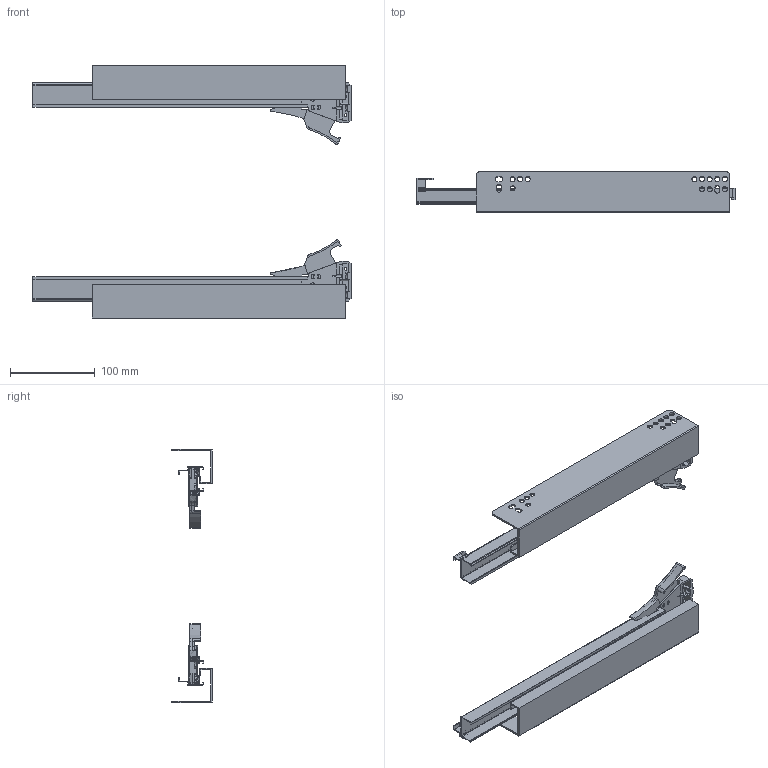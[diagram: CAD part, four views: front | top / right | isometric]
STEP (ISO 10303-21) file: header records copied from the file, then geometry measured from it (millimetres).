
FILE_DESCRIPTION(/* description */ (''),/* implementation_level */ '2;1');
FILE_NAME(/* name */ 'C:\Users\dmitruk\Documents\WORK\НАПРАВЛЯЮЩИЕ\Скрытого монтажа\PUSH\Направляющие скрытого монтажа PUSH TO OPEN\Направляющие скрытого монтажа PUSH TO OPEN-350.stp',/* time_stamp */ '2022-04-22T12:22:47+03:00',/* author */ ('dmitruk'),/* organization */ (''),/* preprocessor_version */ 'ST-DEVELOPER v16.5',/* originating_system */ 'Autodesk Inventor 2017',/* authorisation */ '');
FILE_SCHEMA (('AUTOMOTIVE_DESIGN { 1 0 10303 214 3 1 1 }'));
Length unit declared in the file: millimetre
Products named in the file (13): Направляющие \X2\0441043A
0440044B0442043E0433043E\X0\ монтажа PUSH
 TO OPEN; 3D CP Push; 3D DP Push; 3D CP Push LEFT; 3D DP Push LEFT; Замок Push R; Твердое \X2\04420435043B043E
\X0\1; Твердое \X2\04420435043B043E
\X0\2; Твердое \X2\04420435043B043E
\X0\3; Замок Pusg L; Твердое \X2\04420435043B043E
\X0\1_1; Твердое \X2\04420435043B043E
\X0\2_1; Твердое \X2\04420435043B043E
\X0\3_1
Assembly tree (12 placements, depth 3):
  Направляющие \X2\0441043A
0440044B0442043E0433043E\X0\ монтажа PUSH
 TO OPEN
    3D CP Push
    3D DP Push
    3D CP Push LEFT
    3D DP Push LEFT
    Замок Push R
      Твердое \X2\04420435043B043E
\X0\1
      Твердое \X2\04420435043B043E
\X0\2
      Твердое \X2\04420435043B043E
\X0\3
    Замок Pusg L
      Твердое \X2\04420435043B043E
\X0\1_1
      Твердое \X2\04420435043B043E
\X0\2_1
      Твердое \X2\04420435043B043E
\X0\3_1
Bounding box: 376 x 48 x 300 mm (x, y, z)
Volume: 198005.7 mm3; surface area: 250002.4 mm2
Topology: 10 solids, 10 shells, 812 faces, 2272 edges, 1504 vertices
Faces by surface type: plane 542, cylinder 250, cone 10, bspline 6, sphere 2, torus 2
Full cylindrical faces by diameter (mm): 3 x12, 6 x26
Entity records: 26647 total; most frequent: CARTESIAN_POINT 4887, ORIENTED_EDGE 4428, DIRECTION 4392, EDGE_CURVE 2214, LINE 1646, VECTOR 1646, VERTEX_POINT 1492, AXIS2_PLACEMENT_3D 1373
